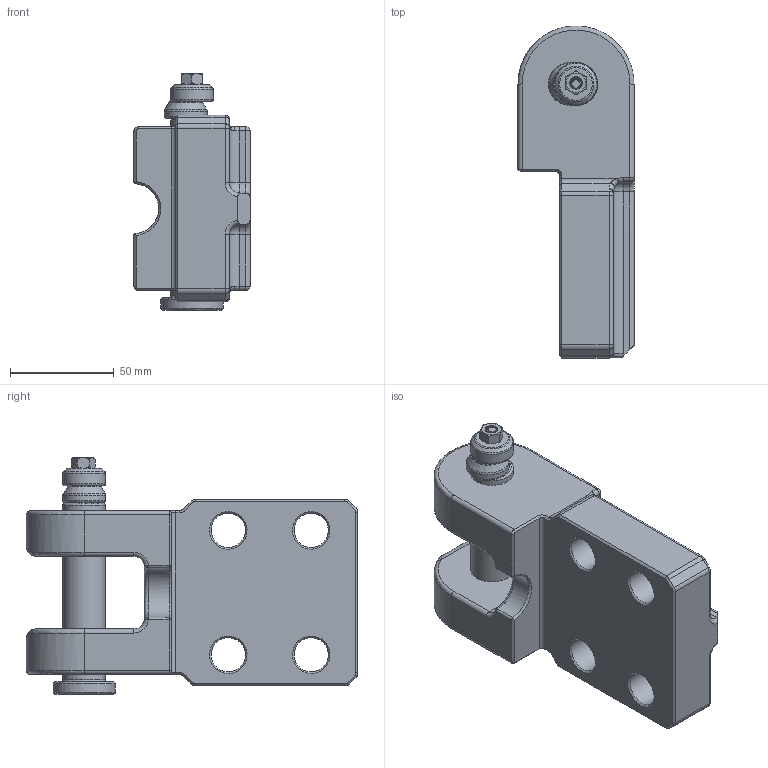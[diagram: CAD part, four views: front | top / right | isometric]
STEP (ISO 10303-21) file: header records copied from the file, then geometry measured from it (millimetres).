
FILE_DESCRIPTION(/* description */ (''),/* implementation_level */ '2;1');
FILE_NAME(/* name */ '2133.12.021.stp',/* time_stamp */ '2023-09-04T18:07:22+08:00',/* author */ (''),/* organization */ (''),/* preprocessor_version */ 'ST-DEVELOPER v16',/* originating_system */ 'SIEMENS PLM Software NX 10.0',/* authorisation */ '');
FILE_SCHEMA (('CONFIG_CONTROL_DESIGN'));
Products named in the file (1): 2133.12.021.prt_model
Bounding box: 56 x 160 x 114 mm (x, y, z)
Volume: 404753.9 mm3; surface area: 63755 mm2
Topology: 5 solids, 5 shells, 870 faces, 4749 edges, 3949 vertices
Faces by surface type: bspline 361, plane 340, cylinder 99, cone 34, torus 32, sphere 4
Full cylindrical faces by diameter (mm): 7 x1, 14 x1, 16.5 x4, 20.6 x3, 21 x2, 30 x1
Entity records: 58412 total; most frequent: CARTESIAN_POINT 31580, ORIENTED_EDGE 9394, EDGE_CURVE 4697, VERTEX_POINT 3949, B_SPLINE_CURVE_WITH_KNOTS 3814, DIRECTION 1014, EDGE_LOOP 994, ADVANCED_FACE 867
